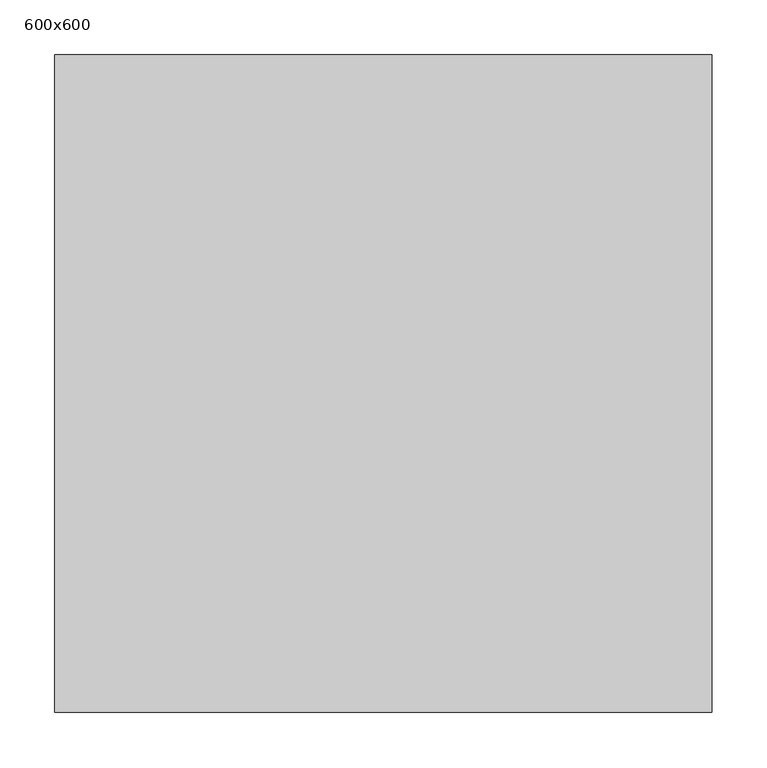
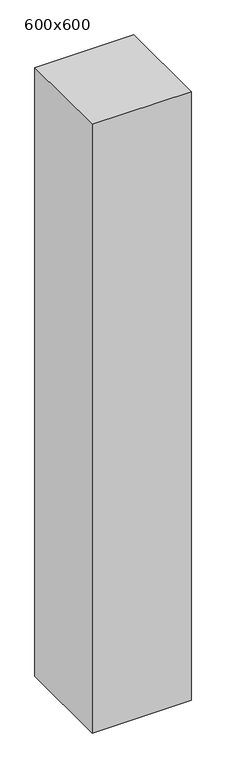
"""IFC4 building model written with IfcOpenShell, lengths in millimetres: column geometry, 混凝土 - 矩形 - 柱 : 600x600."""

import ifcopenshell
import ifcopenshell.guid

model = None  # the IFC model being written
_history = None  # IfcOwnerHistory: only IFC2X3 demands one
_inside = {}  # id of a spatial element -> (the spatial element, [elements in it])
_under = {}  # id of a project, library or spatial element -> (it, [spatial elements below it])
_declared = {}  # id of a project -> (the project, [libraries it declares])
_typed = {}  # id of a type object -> (the type object, [elements of that type])
_made_of = {}  # id of a material, layer set ... -> (it, [elements and type objects made of it])


def new_model(schema):
    """Start an empty IFC model of exactly this schema.

    Asked for "IFC4X3", IfcOpenShell would pick the latest addendum, in which some entities
    have other attributes; the version numbers below select the first issue.
    IFC2X3 requires an IfcOwnerHistory on every rooted entity: one is made here for all.
    """
    global model, _history
    if schema == "IFC4X3":
        model = ifcopenshell.file(schema_version=(4, 3, 0, 0))
    else:
        model = ifcopenshell.file(schema=schema)
    _inside.clear()
    _under.clear()
    _declared.clear()
    _typed.clear()
    _made_of.clear()
    _history = None
    if model.schema == "IFC2X3":
        org = make("IfcOrganization", Name="unknown")
        user = make(
            "IfcPersonAndOrganization",
            ThePerson=make("IfcPerson", FamilyName="unknown"),
            TheOrganization=org,
        )
        app = make(
            "IfcApplication",
            ApplicationDeveloper=org,
            Version="unknown",
            ApplicationFullName="unknown",
            ApplicationIdentifier="unknown",
        )
        _history = make(
            "IfcOwnerHistory",
            OwningUser=user,
            OwningApplication=app,
            ChangeAction="ADDED",
            CreationDate=0,
        )
    return model


def make(cls, **values):
    """One entity of the class cls with the attributes given. An attribute that is None is left unset."""
    return model.create_entity(
        cls, **{name: value for name, value in values.items() if value is not None}
    )


def rooted(cls, **values):
    """An entity with a GlobalId (a new one), such as an element, a storey or a relation."""
    return make(cls, GlobalId=ifcopenshell.guid.new(), OwnerHistory=_history, **values)


def si_unit(unit_type, name, prefix=None):
    """IfcSIUnit, for example si_unit("LENGTHUNIT", "METRE", prefix="MILLI")."""
    return make("IfcSIUnit", UnitType=unit_type, Prefix=prefix, Name=name)


def assignment(units):
    """IfcUnitAssignment: the units of a project."""
    return None if units is None else make("IfcUnitAssignment", Units=units)


def point(xyz):
    """IfcCartesianPoint."""
    return None if xyz is None else make("IfcCartesianPoint", Coordinates=xyz)


def direction(xyz):
    """IfcDirection."""
    return None if xyz is None else make("IfcDirection", DirectionRatios=xyz)


def frame(location, z_axis=None, x_axis=None):
    """IfcAxis2Placement3D, a coordinate frame: its origin and axes. An axis left out is left unset."""
    return make(
        "IfcAxis2Placement3D",
        Location=point(location),
        Axis=direction(z_axis),
        RefDirection=direction(x_axis),
    )


def origin():
    """The frame at (0, 0, 0) with its axes left unset."""
    return frame((0.0, 0.0, 0.0))


def place(relative_to, where):
    """IfcLocalPlacement: puts the frame where relative to a parent placement (None: the world)."""
    return make(
        "IfcLocalPlacement", PlacementRelTo=relative_to, RelativePlacement=where
    )


def context(
    kind, dimensions, precision=None, world=None, true_north=None, identifier=None
):
    """IfcGeometricRepresentationContext, for example the 3D "Model" context."""
    return make(
        "IfcGeometricRepresentationContext",
        ContextIdentifier=identifier,
        ContextType=kind,
        CoordinateSpaceDimension=dimensions,
        Precision=precision,
        WorldCoordinateSystem=world,
        TrueNorth=true_north,
    )


def project(units=None, contexts=None):
    """IfcProject with its units and contexts."""
    return rooted(
        "IfcProject",
        Name="project",
        RepresentationContexts=contexts,
        UnitsInContext=assignment(units),
    )


def spatial(cls, under=None, at=None, **own):
    """A site, building, storey or space (cls), placed at a placement, below another one or the project."""
    s = rooted(cls, ObjectPlacement=at, **own)
    if under is not None:
        _under.setdefault(under.id(), (under, []))[1].append(s)
    return s


def polyline(points):
    """IfcPolyline through the points."""
    return make("IfcPolyline", Points=[point(p) for p in points])


def outline(outer, holes=None, kind="AREA"):
    """IfcArbitraryClosedProfileDef: a profile drawn as a closed curve; with holes, ...WithVoids."""
    if holes is None:
        return make("IfcArbitraryClosedProfileDef", ProfileType=kind, OuterCurve=outer)
    return make(
        "IfcArbitraryProfileDefWithVoids",
        ProfileType=kind,
        OuterCurve=outer,
        InnerCurves=holes,
    )


def extrude(swept, where, along, depth):
    """IfcExtrudedAreaSolid: the profile swept, set in the frame where, extruded along a direction by depth."""
    return make(
        "IfcExtrudedAreaSolid",
        SweptArea=swept,
        Position=where,
        ExtrudedDirection=direction(along),
        Depth=depth,
    )


def shape(context_of_items, identifier, shape_type, items):
    """IfcShapeRepresentation: the items that make up one representation, for example the "Body"."""
    return make(
        "IfcShapeRepresentation",
        ContextOfItems=context_of_items,
        RepresentationIdentifier=identifier,
        RepresentationType=shape_type,
        Items=items,
    )


def source(mapping_origin, context_of_items, identifier, shape_type, items):
    """IfcRepresentationMap: a shape defined once, which mapped items show again and again."""
    return make(
        "IfcRepresentationMap",
        MappingOrigin=mapping_origin,
        MappedRepresentation=shape(context_of_items, identifier, shape_type, items),
    )


def transform(
    local_origin,
    x_axis=None,
    y_axis=None,
    z_axis=None,
    scale=None,
    scale2=None,
    scale3=None,
    uniform=True,
):
    """IfcCartesianTransformationOperator3D, or its non-uniform kind. x_axis, y_axis, z_axis: its Axis1, 2, 3."""
    if uniform:
        return make(
            "IfcCartesianTransformationOperator3D",
            Axis1=direction(x_axis),
            Axis2=direction(y_axis),
            LocalOrigin=point(local_origin),
            Scale=scale,
            Axis3=direction(z_axis),
        )
    return make(
        "IfcCartesianTransformationOperator3DnonUniform",
        Axis1=direction(x_axis),
        Axis2=direction(y_axis),
        LocalOrigin=point(local_origin),
        Scale=scale,
        Axis3=direction(z_axis),
        Scale2=scale2,
        Scale3=scale3,
    )


def mapped(mapping_source, mapping_target):
    """IfcMappedItem: shows the shape of a source again, moved by a transform."""
    return make(
        "IfcMappedItem", MappingSource=mapping_source, MappingTarget=mapping_target
    )


def made_of(thing, what):
    """Note that an element or type object is made of a material, layer set ...; save() writes the relation."""
    if what is not None:
        _made_of.setdefault(what.id(), (what, []))[1].append(thing)
    return thing


def element(
    cls,
    number,
    at=None,
    inside=None,
    cuts=None,
    type_object=None,
    material=None,
    context=None,
    identifier="Body",
    shape_type=None,
    held_by="IfcProductDefinitionShape",
    body=None,
    shapes=None,
    **own,
):
    """One element of the class cls, such as IfcWall. Its Tag is "e" and its number.

    at: its placement. inside: the storey or other place that contains it. cuts: it is an
    opening in that element (IfcRelVoidsElement). A single representation is given by context,
    identifier, shape_type and body (its items); several are given by shapes. held_by: the class
    of the entity that holds the representations. save() writes the other relations.
    """
    e = rooted(cls, Tag="e%d" % number, ObjectPlacement=at, **own)
    if body is not None:
        shapes = [shape(context, identifier, shape_type, body)]
    if shapes is not None:
        e.Representation = make(held_by, Representations=shapes)
    if inside is not None:
        _inside.setdefault(inside.id(), (inside, []))[1].append(e)
    if cuts is not None:
        rooted(
            "IfcRelVoidsElement", RelatingBuildingElement=cuts, RelatedOpeningElement=e
        )
    if type_object is not None:
        _typed.setdefault(type_object.id(), (type_object, []))[1].append(e)
    return made_of(e, material)


def aggregate(whole, parts):
    """IfcRelAggregates: a whole, such as a stair, and the parts it consists of."""
    return rooted("IfcRelAggregates", RelatingObject=whole, RelatedObjects=parts)


def save(model, path):
    """Write the relations noted so far, then the file.

    IfcRelAggregates (storeys below a building ...), IfcRelContainedInSpatialStructure (elements
    in a storey), IfcRelDefinesByType, IfcRelAssociatesMaterial and IfcRelDeclares: one each for
    every whole, place, type object, material and project.
    """
    for whole, parts in _under.values():
        aggregate(whole, parts)
    for where, things in _inside.values():
        rooted(
            "IfcRelContainedInSpatialStructure",
            RelatedElements=things,
            RelatingStructure=where,
        )
    for kind, things in _typed.values():
        rooted("IfcRelDefinesByType", RelatedObjects=things, RelatingType=kind)
    for what, things in _made_of.values():
        rooted("IfcRelAssociatesMaterial", RelatedObjects=things, RelatingMaterial=what)
    for by, libraries in _declared.values():
        rooted("IfcRelDeclares", RelatingContext=by, RelatedDefinitions=libraries)
    model.write(path)


def column_600x600_05fc6456(model_context):
    return source(origin(), model_context, "Body", "SweptSolid", [
        extrude(outline(polyline([(300.0, 300.0), (300.0, -300.0), (-300.0, -300.0), (-300.0, 300.0), (300.0, 300.0)])), frame((0.0, 0.0, 11000.0), z_axis=(0.0, 0.0, 1.0), x_axis=(1.0, 0.0, 0.0)), (0.0, 0.0, 1.0), 3900.0),
    ])


if __name__ == "__main__":
    model = new_model("IFC4")
    model_context = context("Model", 3, world=origin())
    ifc_project = project(units=[si_unit("LENGTHUNIT", "METRE", prefix="MILLI")], contexts=[model_context])
    site = spatial("IfcSite", under=ifc_project)
    building = spatial("IfcBuilding", under=site)
    placement = place(None, origin())
    column_600x600_shape = column_600x600_05fc6456(model_context)
    element("IfcColumn", 1, ObjectType="混凝土 - 矩形 - 柱 : 600x600", at=placement, inside=building, context=model_context, shape_type="MappedRepresentation", body=[
        mapped(column_600x600_shape, transform((0.0, 0.0, 0.0), x_axis=(1.0, 0.0, 0.0), y_axis=(0.0, 1.0, 0.0), z_axis=(0.0, 0.0, 1.0))),
    ])
    save(model, "model.ifc")
